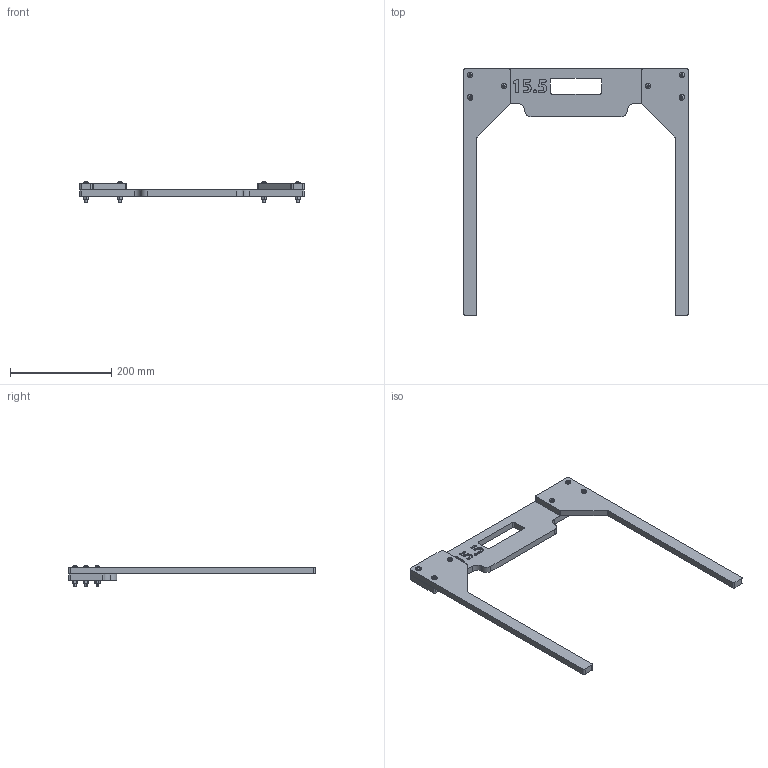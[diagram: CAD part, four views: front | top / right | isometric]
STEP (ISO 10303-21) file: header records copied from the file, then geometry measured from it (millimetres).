
FILE_DESCRIPTION (( 'STEP AP214' ), '1' );
FILE_NAME ('GE-25400.STEP', '2025-01-03T21:52:35', ( '' ), ( '' ), 'SwSTEP 2.0', 'SolidWorks 2022', '' );
FILE_SCHEMA (( 'AUTOMOTIVE_DESIGN' ));
Length unit declared in the file: inch
Products named in the file (6): washer_flat_10_washer_flat_10; GE-25400; GE-25402; Button_hex_10_32_1.5; nylock_10_32_90631A411; GE-25403_min modified
Assembly tree (27 placements, depth 2):
  GE-25400
    GE-25403_min modified
    GE-25402  x2
    washer_flat_10_washer_flat_10  x12
    Button_hex_10_32_1.5  x6
    nylock_10_32_90631A411  x6
Bounding box: 444.5 x 488.95 x 40.67 mm (x, y, z)
Volume: 911729.1 mm3; surface area: 201491.8 mm2
Topology: 33 solids, 33 shells, 555 faces, 1281 edges, 820 vertices
Faces by surface type: plane 205, cylinder 184, cone 96, torus 36, bspline 22, sphere 12
Entity records: 7252 total; most frequent: CARTESIAN_POINT 2148, DIRECTION 1011, ORIENTED_EDGE 980, EDGE_CURVE 490, AXIS2_PLACEMENT_3D 392, VERTEX_POINT 321, LINE 227, VECTOR 227
